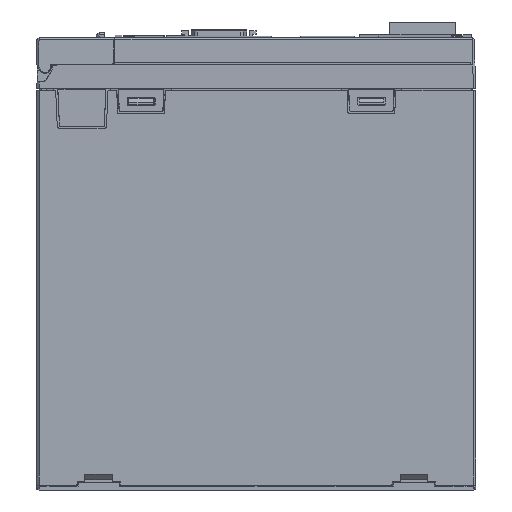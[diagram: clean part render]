
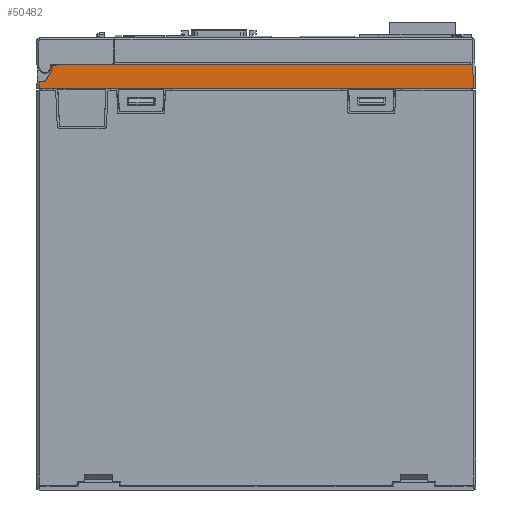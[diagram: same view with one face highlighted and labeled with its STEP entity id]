
A CAD part, left-side view. The second image highlights one B-rep face of the part: STEP entity #50482.
In plain terms, the highlighted planar face has unit normal (-1, 0, 0).
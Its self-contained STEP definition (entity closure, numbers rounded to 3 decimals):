
#9845=DIRECTION('',(0.,-1.,0.));
#9846=VECTOR('',#9845,45.5);
#9847=CARTESIAN_POINT('',(0.,-3.5,146.535));
#9848=LINE('',#9847,#9846);
#10914=DIRECTION('',(0.,0.,1.));
#10915=VECTOR('',#10914,0.035);
#10916=CARTESIAN_POINT('',(0.,-111.,146.5));
#10917=LINE('',#10916,#10915);
#10918=DIRECTION('',(0.,-0.026,-1.));
#10919=VECTOR('',#10918,8.503);
#10920=CARTESIAN_POINT('',(0.,-158.977,
155.));
#10921=LINE('',#10920,#10919);
#10922=DIRECTION('',(0.,1.,0.));
#10923=VECTOR('',#10922,26.2);
#10924=CARTESIAN_POINT('',(0.,-159.2,146.5));
#10925=LINE('',#10924,#10923);
#10926=DIRECTION('',(0.,0.,1.));
#10927=VECTOR('',#10926,0.035);
#10928=CARTESIAN_POINT('',(0.,-133.,146.5));
#10929=LINE('',#10928,#10927);
#10930=DIRECTION('',(0.,1.,0.));
#10931=VECTOR('',#10930,22.);
#10932=CARTESIAN_POINT('',(0.,-133.,146.535));
#10933=LINE('',#10932,#10931);
#10934=DIRECTION('',(0.,1.,0.));
#10935=VECTOR('',#10934,62.);
#10936=CARTESIAN_POINT('',(0.,-111.,146.5));
#10937=LINE('',#10936,#10935);
#10938=DIRECTION('',(0.,0.,1.));
#10939=VECTOR('',#10938,0.035);
#10940=CARTESIAN_POINT('',(0.,-49.,146.5));
#10941=LINE('',#10940,#10939);
#10942=DIRECTION('',(0.,0.,-1.));
#10943=VECTOR('',#10942,0.035);
#10944=CARTESIAN_POINT('',(0.,-3.5,146.535));
#10945=LINE('',#10944,#10943);
#10946=DIRECTION('',(0.,1.,0.));
#10947=VECTOR('',#10946,2.7);
#10948=CARTESIAN_POINT('',(0.,-3.5,146.5));
#10949=LINE('',#10948,#10947);
#10950=DIRECTION('',(0.,-0.026,1.));
#10951=VECTOR('',#10950,2.326);
#10952=CARTESIAN_POINT('',(0.,-0.8,146.5));
#10953=LINE('',#10952,#10951);
#10954=CARTESIAN_POINT('',(0.,-1.845,151.));
#10955=DIRECTION('',(-1.,0.,0.));
#10956=DIRECTION('',(0.,0.,-1.));
#10957=AXIS2_PLACEMENT_3D('',#10954,#10955,#10956);
#10959=DIRECTION('',(0.,-0.5,0.866));
#10960=VECTOR('',#10959,3.175);
#10961=CARTESIAN_POINT('',(0.,-3.729,
149.913));
#10962=LINE('',#10961,#10960);
#10963=CARTESIAN_POINT('',(0.,-3.,154.));
#10964=DIRECTION('',(-1.,0.,0.));
#10965=DIRECTION('',(0.,-0.866,-0.5));
#10966=AXIS2_PLACEMENT_3D('',#10963,#10964,#10965);
#10968=DIRECTION('',(0.,-1.,0.));
#10969=VECTOR('',#10968,20.964);
#10970=CARTESIAN_POINT('',(0.,-7.274,155.));
#10971=LINE('',#10970,#10969);
#10972=DIRECTION('',(0.,-1.,0.));
#10973=VECTOR('',#10972,129.96);
#10974=CARTESIAN_POINT('',(0.,-28.238,155.));
#10975=LINE('',#10974,#10973);
#11120=DIRECTION('',(0.,1.,0.));
#11121=VECTOR('',#11120,0.779);
#11122=CARTESIAN_POINT('',(0.,-158.977,
155.));
#11123=LINE('',#11122,#11121);
#11207=DIRECTION('',(0.,0.,-1.));
#11208=VECTOR('',#11207,0.07);
#11209=CARTESIAN_POINT('',(0.,-7.274,155.));
#11210=LINE('',#11209,#11208);
#11211=DIRECTION('',(0.,1.,0.));
#11212=VECTOR('',#11211,1.599);
#11213=CARTESIAN_POINT('',(0.,-7.274,
154.93));
#11214=LINE('',#11213,#11212);
#11228=DIRECTION('',(0.,0.,-1.));
#11229=VECTOR('',#11228,0.93);
#11230=CARTESIAN_POINT('',(0.,-5.675,
154.93));
#11231=LINE('',#11230,#11229);
#11256=DIRECTION('',(0.,1.,0.));
#11257=VECTOR('',#11256,0.984);
#11258=CARTESIAN_POINT('',(0.,-1.845,
148.825));
#11259=LINE('',#11258,#11257);
#29775=CARTESIAN_POINT('',(0.,-49.,146.5));
#29776=VERTEX_POINT('',#29775);
#29777=CARTESIAN_POINT('',(0.,-111.,146.5));
#29778=VERTEX_POINT('',#29777);
#29779=CARTESIAN_POINT('',(0.,-49.,146.535));
#29780=VERTEX_POINT('',#29779);
#29793=CARTESIAN_POINT('',(0.,-3.5,146.535));
#29794=VERTEX_POINT('',#29793);
#30455=CARTESIAN_POINT('',(0.,-7.274,155.));
#30456=CARTESIAN_POINT('',(0.,-28.238,155.));
#30457=VERTEX_POINT('',#30455);
#30458=VERTEX_POINT('',#30456);
#30735=CARTESIAN_POINT('',(0.,-159.2,146.5));
#30736=VERTEX_POINT('',#30735);
#30737=CARTESIAN_POINT('',(0.,-158.977,
155.));
#30738=VERTEX_POINT('',#30737);
#31416=CARTESIAN_POINT('',(0.,-0.8,146.5));
#31417=VERTEX_POINT('',#31416);
#31418=CARTESIAN_POINT('',(0.,-3.5,146.5));
#31419=VERTEX_POINT('',#31418);
#31422=CARTESIAN_POINT('',(0.,-0.861,
148.825));
#31423=VERTEX_POINT('',#31422);
#31424=CARTESIAN_POINT('',(0.,-1.845,
148.825));
#31425=VERTEX_POINT('',#31424);
#31426=CARTESIAN_POINT('',(0.,-3.729,149.913));
#31427=VERTEX_POINT('',#31426);
#31428=CARTESIAN_POINT('',(0.,-133.,146.5));
#31429=VERTEX_POINT('',#31428);
#31430=CARTESIAN_POINT('',(0.,-133.,146.535));
#31431=VERTEX_POINT('',#31430);
#31432=CARTESIAN_POINT('',(0.,-111.,146.535));
#31433=VERTEX_POINT('',#31432);
#31434=CARTESIAN_POINT('',(0.,-5.317,
152.663));
#31435=VERTEX_POINT('',#31434);
#31436=CARTESIAN_POINT('',(0.,-5.675,154.));
#31437=VERTEX_POINT('',#31436);
#31438=CARTESIAN_POINT('',(0.,-5.675,
154.93));
#31439=VERTEX_POINT('',#31438);
#31440=CARTESIAN_POINT('',(0.,-7.274,
154.93));
#31441=VERTEX_POINT('',#31440);
#31442=CARTESIAN_POINT('',(0.,-158.199,155.));
#31443=VERTEX_POINT('',#31442);
#50438=CARTESIAN_POINT('',(0.,0.,146.5));
#50439=DIRECTION('',(-1.,0.,0.));
#50440=DIRECTION('',(0.,-1.,0.));
#50441=AXIS2_PLACEMENT_3D('',#50438,#50439,#50440);
#50442=PLANE('',#50441);
#50444=ORIENTED_EDGE('',*,*,#50443,.T.);
#50446=ORIENTED_EDGE('',*,*,#50445,.T.);
#50448=ORIENTED_EDGE('',*,*,#50447,.T.);
#50449=ORIENTED_EDGE('',*,*,#50419,.T.);
#50450=ORIENTED_EDGE('',*,*,#50433,.F.);
#50451=ORIENTED_EDGE('',*,*,#49105,.T.);
#50452=ORIENTED_EDGE('',*,*,#49119,.T.);
#50453=ORIENTED_EDGE('',*,*,#49145,.F.);
#50455=ORIENTED_EDGE('',*,*,#50454,.T.);
#50457=ORIENTED_EDGE('',*,*,#50456,.T.);
#50459=ORIENTED_EDGE('',*,*,#50458,.T.);
#50461=ORIENTED_EDGE('',*,*,#50460,.F.);
#50463=ORIENTED_EDGE('',*,*,#50462,.T.);
#50465=ORIENTED_EDGE('',*,*,#50464,.T.);
#50467=ORIENTED_EDGE('',*,*,#50466,.T.);
#50469=ORIENTED_EDGE('',*,*,#50468,.F.);
#50471=ORIENTED_EDGE('',*,*,#50470,.F.);
#50473=ORIENTED_EDGE('',*,*,#50472,.F.);
#50475=ORIENTED_EDGE('',*,*,#50474,.T.);
#50477=ORIENTED_EDGE('',*,*,#50476,.T.);
#50479=ORIENTED_EDGE('',*,*,#50478,.F.);
#50480=EDGE_LOOP('',(#50444,#50446,#50448,#50449,#50450,#50451,#50452,#50453,
#50455,#50457,#50459,#50461,#50463,#50465,#50467,#50469,#50471,#50473,#50475,
#50477,#50479));
#50481=FACE_OUTER_BOUND('',#50480,.F.);
#50482=ADVANCED_FACE('',(#50481),#50442,.T.);
#10958=CIRCLE('',#10957,2.175);
#10967=CIRCLE('',#10966,2.675);
#49105=EDGE_CURVE('',#29778,#29776,#10937,.T.);
#49119=EDGE_CURVE('',#29776,#29780,#10941,.T.);
#49145=EDGE_CURVE('',#29794,#29780,#9848,.T.);
#50419=EDGE_CURVE('',#31431,#31433,#10933,.T.);
#50433=EDGE_CURVE('',#29778,#31433,#10917,.T.);
#50443=EDGE_CURVE('',#30738,#30736,#10921,.T.);
#50445=EDGE_CURVE('',#30736,#31429,#10925,.T.);
#50447=EDGE_CURVE('',#31429,#31431,#10929,.T.);
#50454=EDGE_CURVE('',#29794,#31419,#10945,.T.);
#50456=EDGE_CURVE('',#31419,#31417,#10949,.T.);
#50458=EDGE_CURVE('',#31417,#31423,#10953,.T.);
#50460=EDGE_CURVE('',#31425,#31423,#11259,.T.);
#50462=EDGE_CURVE('',#31425,#31427,#10958,.T.);
#50464=EDGE_CURVE('',#31427,#31435,#10962,.T.);
#50466=EDGE_CURVE('',#31435,#31437,#10967,.T.);
#50468=EDGE_CURVE('',#31439,#31437,#11231,.T.);
#50470=EDGE_CURVE('',#31441,#31439,#11214,.T.);
#50472=EDGE_CURVE('',#30457,#31441,#11210,.T.);
#50474=EDGE_CURVE('',#30457,#30458,#10971,.T.);
#50476=EDGE_CURVE('',#30458,#31443,#10975,.T.);
#50478=EDGE_CURVE('',#30738,#31443,#11123,.T.);
